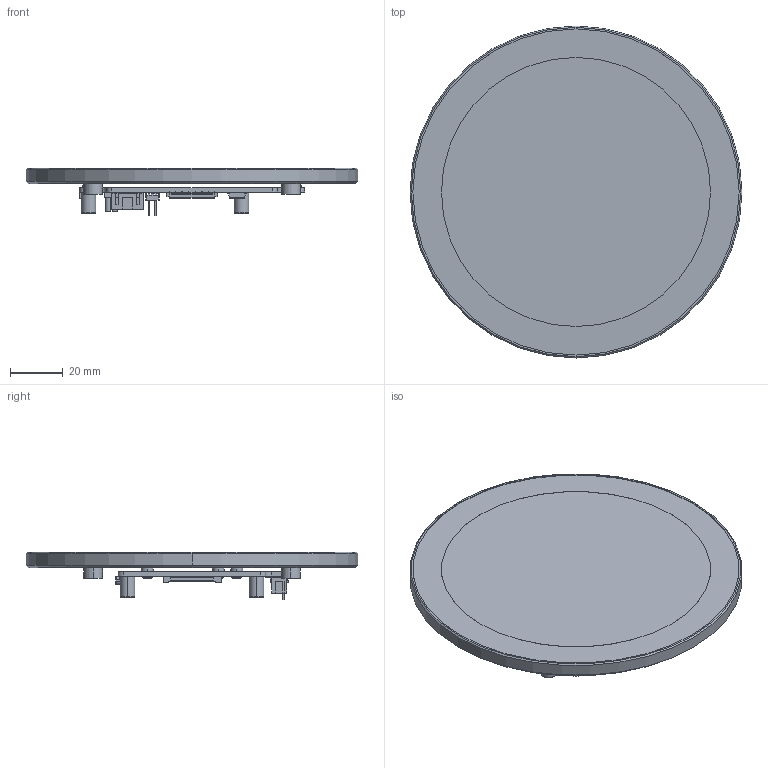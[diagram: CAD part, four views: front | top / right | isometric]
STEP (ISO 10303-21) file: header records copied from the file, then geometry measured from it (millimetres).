
FILE_DESCRIPTION((''),'2;1');
FILE_NAME('4INCH-720X720-LCD_CASE_ASM_ASM','2023-06-05T16:05:02',('xiaojisheng'),(''),'CREO PARAMETRIC BY PTC INC, 2021063','CREO PARAMETRIC BY PTC INC, 2021063','');
FILE_SCHEMA(('CONFIG_CONTROL_DESIGN','SHAPE_APPEARANCE_LAYERS_GROUPS'));
Products named in the file (11): 3_4-4INCH-DSI-LCD_C-PCB; TYPE-C_16PIN-9X3X7_3; 30PIN-0_5SH_LCD_CONNECTOR; STUDS-M2_5XH8; HP2_0-4PIN-SMT-L; 2_54_MM_DUPONT_MALE_2PIN-SMT; SWITCH-SMT-TDA04; 3_4-4INCH-DSI-LCD_C-PCBA_ASM; PM2_5X3-SCREW; 4INCH-DSI-LCD_C-CASE; 4INCH-720X720-LCD_CASE_ASM_ASM
Assembly tree (16 placements, depth 3):
  4INCH-720X720-LCD_CASE_ASM_ASM
    3_4-4INCH-DSI-LCD_C-PCBA_ASM
      3_4-4INCH-DSI-LCD_C-PCB
      TYPE-C_16PIN-9X3X7_3
      30PIN-0_5SH_LCD_CONNECTOR
      STUDS-M2_5XH8  x4
      HP2_0-4PIN-SMT-L
      2_54_MM_DUPONT_MALE_2PIN-SMT
      SWITCH-SMT-TDA04
    PM2_5X3-SCREW  x4
    4INCH-DSI-LCD_C-CASE
Bounding box: 126 x 126 x 18.2 mm (x, y, z)
Volume: 81837.7 mm3; surface area: 42802.1 mm2
Topology: 15 solids, 15 shells, 2285 faces, 6456 edges, 4232 vertices
Faces by surface type: plane 1487, cylinder 604, cone 85, bspline 52, extrusion 33, torus 16, sphere 8
Entity records: 88192 total; most frequent: CARTESIAN_POINT 17812, ORIENTED_EDGE 11388, DIRECTION 10396, EDGE_CURVE 5694, PRESENTATION_STYLE_ASSIGNMENT 5248, STYLED_ITEM 5206, CURVE_STYLE 4898, VECTOR 4544
